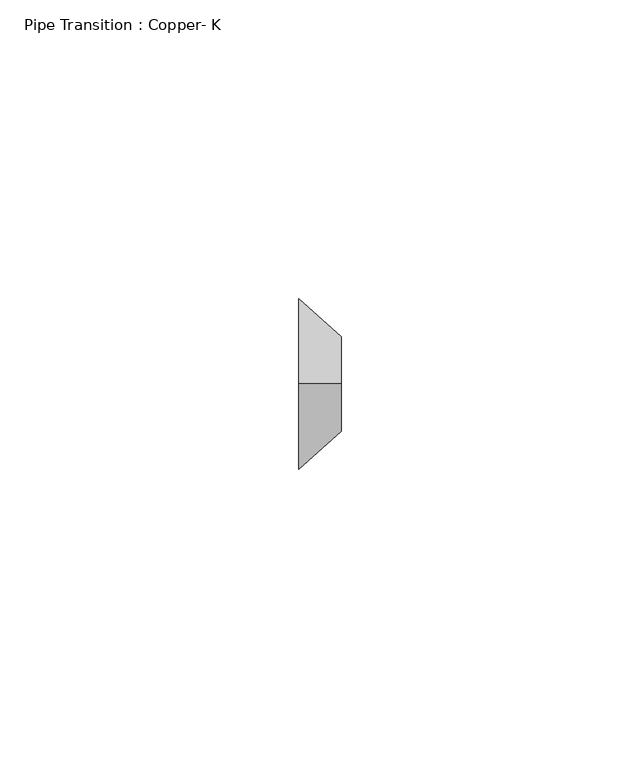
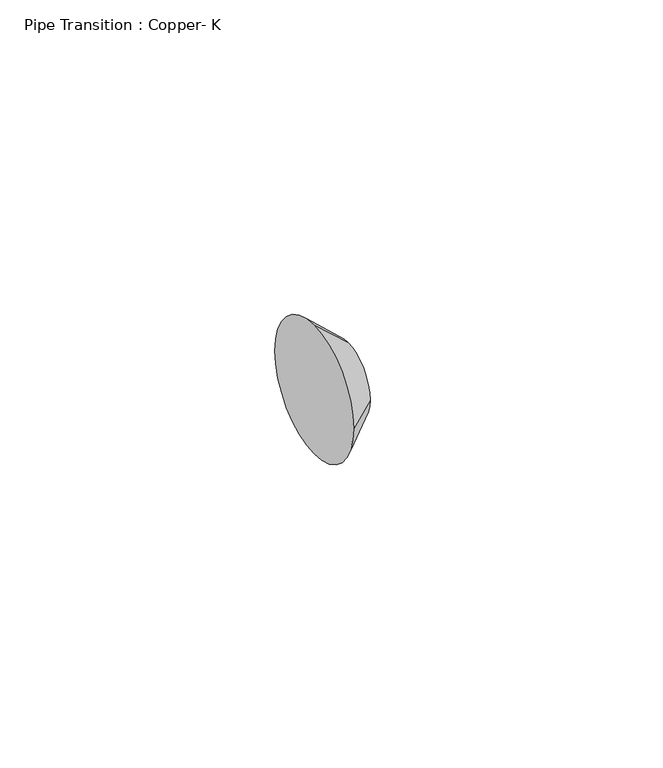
"""IFC4 building model written with IfcOpenShell, lengths in millimetres: pipe fitting geometry, Pipe Transition : Copper- K."""

import ifcopenshell
import ifcopenshell.guid

model = None  # the IFC model being written
_history = None  # IfcOwnerHistory: only IFC2X3 demands one
_inside = {}  # id of a spatial element -> (the spatial element, [elements in it])
_under = {}  # id of a project, library or spatial element -> (it, [spatial elements below it])
_declared = {}  # id of a project -> (the project, [libraries it declares])
_typed = {}  # id of a type object -> (the type object, [elements of that type])
_made_of = {}  # id of a material, layer set ... -> (it, [elements and type objects made of it])


def new_model(schema):
    """Start an empty IFC model of exactly this schema.

    Asked for "IFC4X3", IfcOpenShell would pick the latest addendum, in which some entities
    have other attributes; the version numbers below select the first issue.
    IFC2X3 requires an IfcOwnerHistory on every rooted entity: one is made here for all.
    """
    global model, _history
    if schema == "IFC4X3":
        model = ifcopenshell.file(schema_version=(4, 3, 0, 0))
    else:
        model = ifcopenshell.file(schema=schema)
    _inside.clear()
    _under.clear()
    _declared.clear()
    _typed.clear()
    _made_of.clear()
    _history = None
    if model.schema == "IFC2X3":
        org = make("IfcOrganization", Name="unknown")
        user = make(
            "IfcPersonAndOrganization",
            ThePerson=make("IfcPerson", FamilyName="unknown"),
            TheOrganization=org,
        )
        app = make(
            "IfcApplication",
            ApplicationDeveloper=org,
            Version="unknown",
            ApplicationFullName="unknown",
            ApplicationIdentifier="unknown",
        )
        _history = make(
            "IfcOwnerHistory",
            OwningUser=user,
            OwningApplication=app,
            ChangeAction="ADDED",
            CreationDate=0,
        )
    return model


def make(cls, **values):
    """One entity of the class cls with the attributes given. An attribute that is None is left unset."""
    return model.create_entity(
        cls, **{name: value for name, value in values.items() if value is not None}
    )


def rooted(cls, **values):
    """An entity with a GlobalId (a new one), such as an element, a storey or a relation."""
    return make(cls, GlobalId=ifcopenshell.guid.new(), OwnerHistory=_history, **values)


def si_unit(unit_type, name, prefix=None):
    """IfcSIUnit, for example si_unit("LENGTHUNIT", "METRE", prefix="MILLI")."""
    return make("IfcSIUnit", UnitType=unit_type, Prefix=prefix, Name=name)


def assignment(units):
    """IfcUnitAssignment: the units of a project."""
    return None if units is None else make("IfcUnitAssignment", Units=units)


def point(xyz):
    """IfcCartesianPoint."""
    return None if xyz is None else make("IfcCartesianPoint", Coordinates=xyz)


def direction(xyz):
    """IfcDirection."""
    return None if xyz is None else make("IfcDirection", DirectionRatios=xyz)


def frame(location, z_axis=None, x_axis=None):
    """IfcAxis2Placement3D, a coordinate frame: its origin and axes. An axis left out is left unset."""
    return make(
        "IfcAxis2Placement3D",
        Location=point(location),
        Axis=direction(z_axis),
        RefDirection=direction(x_axis),
    )


def origin():
    """The frame at (0, 0, 0) with its axes left unset."""
    return frame((0.0, 0.0, 0.0))


def place(relative_to, where):
    """IfcLocalPlacement: puts the frame where relative to a parent placement (None: the world)."""
    return make(
        "IfcLocalPlacement", PlacementRelTo=relative_to, RelativePlacement=where
    )


def context(
    kind, dimensions, precision=None, world=None, true_north=None, identifier=None
):
    """IfcGeometricRepresentationContext, for example the 3D "Model" context."""
    return make(
        "IfcGeometricRepresentationContext",
        ContextIdentifier=identifier,
        ContextType=kind,
        CoordinateSpaceDimension=dimensions,
        Precision=precision,
        WorldCoordinateSystem=world,
        TrueNorth=true_north,
    )


def project(units=None, contexts=None):
    """IfcProject with its units and contexts."""
    return rooted(
        "IfcProject",
        Name="project",
        RepresentationContexts=contexts,
        UnitsInContext=assignment(units),
    )


def spatial(cls, under=None, at=None, **own):
    """A site, building, storey or space (cls), placed at a placement, below another one or the project."""
    s = rooted(cls, ObjectPlacement=at, **own)
    if under is not None:
        _under.setdefault(under.id(), (under, []))[1].append(s)
    return s


def polyline(points):
    """IfcPolyline through the points."""
    return make("IfcPolyline", Points=[point(p) for p in points])


def circle_curve(where, radius):
    """IfcCircle in the frame where."""
    return make("IfcCircle", Position=where, Radius=radius)


def shape(context_of_items, identifier, shape_type, items):
    """IfcShapeRepresentation: the items that make up one representation, for example the "Body"."""
    return make(
        "IfcShapeRepresentation",
        ContextOfItems=context_of_items,
        RepresentationIdentifier=identifier,
        RepresentationType=shape_type,
        Items=items,
    )


def source(mapping_origin, context_of_items, identifier, shape_type, items):
    """IfcRepresentationMap: a shape defined once, which mapped items show again and again."""
    return make(
        "IfcRepresentationMap",
        MappingOrigin=mapping_origin,
        MappedRepresentation=shape(context_of_items, identifier, shape_type, items),
    )


def transform(
    local_origin,
    x_axis=None,
    y_axis=None,
    z_axis=None,
    scale=None,
    scale2=None,
    scale3=None,
    uniform=True,
):
    """IfcCartesianTransformationOperator3D, or its non-uniform kind. x_axis, y_axis, z_axis: its Axis1, 2, 3."""
    if uniform:
        return make(
            "IfcCartesianTransformationOperator3D",
            Axis1=direction(x_axis),
            Axis2=direction(y_axis),
            LocalOrigin=point(local_origin),
            Scale=scale,
            Axis3=direction(z_axis),
        )
    return make(
        "IfcCartesianTransformationOperator3DnonUniform",
        Axis1=direction(x_axis),
        Axis2=direction(y_axis),
        LocalOrigin=point(local_origin),
        Scale=scale,
        Axis3=direction(z_axis),
        Scale2=scale2,
        Scale3=scale3,
    )


def mapped(mapping_source, mapping_target):
    """IfcMappedItem: shows the shape of a source again, moved by a transform."""
    return make(
        "IfcMappedItem", MappingSource=mapping_source, MappingTarget=mapping_target
    )


def made_of(thing, what):
    """Note that an element or type object is made of a material, layer set ...; save() writes the relation."""
    if what is not None:
        _made_of.setdefault(what.id(), (what, []))[1].append(thing)
    return thing


def element(
    cls,
    number,
    at=None,
    inside=None,
    cuts=None,
    type_object=None,
    material=None,
    context=None,
    identifier="Body",
    shape_type=None,
    held_by="IfcProductDefinitionShape",
    body=None,
    shapes=None,
    **own,
):
    """One element of the class cls, such as IfcWall. Its Tag is "e" and its number.

    at: its placement. inside: the storey or other place that contains it. cuts: it is an
    opening in that element (IfcRelVoidsElement). A single representation is given by context,
    identifier, shape_type and body (its items); several are given by shapes. held_by: the class
    of the entity that holds the representations. save() writes the other relations.
    """
    e = rooted(cls, Tag="e%d" % number, ObjectPlacement=at, **own)
    if body is not None:
        shapes = [shape(context, identifier, shape_type, body)]
    if shapes is not None:
        e.Representation = make(held_by, Representations=shapes)
    if inside is not None:
        _inside.setdefault(inside.id(), (inside, []))[1].append(e)
    if cuts is not None:
        rooted(
            "IfcRelVoidsElement", RelatingBuildingElement=cuts, RelatedOpeningElement=e
        )
    if type_object is not None:
        _typed.setdefault(type_object.id(), (type_object, []))[1].append(e)
    return made_of(e, material)


def aggregate(whole, parts):
    """IfcRelAggregates: a whole, such as a stair, and the parts it consists of."""
    return rooted("IfcRelAggregates", RelatingObject=whole, RelatedObjects=parts)


def save(model, path):
    """Write the relations noted so far, then the file.

    IfcRelAggregates (storeys below a building ...), IfcRelContainedInSpatialStructure (elements
    in a storey), IfcRelDefinesByType, IfcRelAssociatesMaterial and IfcRelDeclares: one each for
    every whole, place, type object, material and project.
    """
    for whole, parts in _under.values():
        aggregate(whole, parts)
    for where, things in _inside.values():
        rooted(
            "IfcRelContainedInSpatialStructure",
            RelatedElements=things,
            RelatingStructure=where,
        )
    for kind, things in _typed.values():
        rooted("IfcRelDefinesByType", RelatedObjects=things, RelatingType=kind)
    for what, things in _made_of.values():
        rooted("IfcRelAssociatesMaterial", RelatedObjects=things, RelatingMaterial=what)
    for by, libraries in _declared.values():
        rooted("IfcRelDeclares", RelatingContext=by, RelatedDefinitions=libraries)
    model.write(path)


def plane_surface(at):
    """IfcPlane: the flat surface through the origin of the frame at, square to its z axis."""
    return make("IfcPlane", Position=at)


def revolved_surface(curve, axis_point, axis_direction):
    """IfcSurfaceOfRevolution: the curve turned about the line through axis_point along axis_direction."""
    return make(
        "IfcSurfaceOfRevolution",
        SweptCurve=make("IfcArbitraryOpenProfileDef", ProfileType="CURVE", Curve=curve),
        AxisPosition=make("IfcAxis1Placement", Location=point(axis_point), Axis=direction(axis_direction)),
    )


def advanced_brep(points, edges, surfaces, faces):
    """IfcAdvancedBrep: a solid bounded by faces that lie on surfaces and meet in shared edges.

    An edge is (start, end): straight between two places in points (the first is 0);
    or (start, end, curve); or (start, end, curve, False) where it runs against its curve.
    A face is (place in surfaces, loops), or (place, loops, False) where it looks against
    its surface's normal. A loop lists edges by number (the first is 1), with a minus sign
    where the edge is run from its end to its start. The first loop is the outer one.
    """
    corners = [point(p) for p in points]
    vertices = [make("IfcVertexPoint", VertexGeometry=c) for c in corners]
    made = []
    for start, end, *more in edges:
        made.append(
            make(
                "IfcEdgeCurve",
                EdgeStart=vertices[start],
                EdgeEnd=vertices[end],
                EdgeGeometry=more[0] if more else make("IfcPolyline", Points=[corners[start], corners[end]]),
                SameSense=more[1] if len(more) > 1 else True,
            )
        )
    hull = []
    for where, loops, *sense in faces:
        bounds = []
        for j, loop in enumerate(loops):
            ring = [make("IfcOrientedEdge", EdgeElement=made[abs(k) - 1], Orientation=k > 0) for k in loop]
            bounds.append(
                make(
                    "IfcFaceOuterBound" if j == 0 else "IfcFaceBound",
                    Bound=make("IfcEdgeLoop", EdgeList=ring),
                    Orientation=True,
                )
            )
        hull.append(make("IfcAdvancedFace", Bounds=bounds, FaceSurface=surfaces[where], SameSense=sense[0] if sense else True))
    return make("IfcAdvancedBrep", Outer=make("IfcClosedShell", CfsFaces=hull))


def pipe_transition_copper_k_b63fd5dd(model_context):
    return source(origin(), model_context, "Body", "AdvancedBrep", [
        advanced_brep(
        [(7.14375, 0.0, 7.9375), (7.14375, -7.9375, 0.0), (7.14375, 0.0, -7.9375), (7.14375, 7.9375, 0.0), (0.0, 0.0, 14.2875), (0.0, 14.2875, 0.0), (0.0, 0.0, -14.2875), (0.0, -14.2875, 0.0)],
        [
            (0, 1, circle_curve(frame((7.14375, 0.0, 0.0), z_axis=(1.0, 0.0, 0.0), x_axis=(0.0, 0.0, 1.0)), 7.9375)),
            (1, 2, circle_curve(frame((7.14375, 0.0, 0.0), z_axis=(1.0, 0.0, 0.0), x_axis=(0.0, -1.0, 0.0)), 7.9375)),
            (2, 3, circle_curve(frame((7.14375, 0.0, 0.0), z_axis=(1.0, 0.0, 0.0), x_axis=(0.0, 0.0, -1.0)), 7.9375)),
            (3, 0, circle_curve(frame((7.14375, 0.0, 0.0), z_axis=(1.0, 0.0, 0.0), x_axis=(0.0, 1.0, 0.0)), 7.9375)),
            (4, 5, circle_curve(frame((0.0, 0.0, 0.0), z_axis=(-1.0, 0.0, 0.0), x_axis=(0.0, 1.0, 0.0)), 14.2875)),
            (5, 6, circle_curve(frame((0.0, 0.0, 0.0), z_axis=(-1.0, 0.0, 0.0), x_axis=(0.0, 0.0, -1.0)), 14.2875)),
            (6, 7, circle_curve(frame((0.0, 0.0, 0.0), z_axis=(-1.0, 0.0, 0.0), x_axis=(0.0, -1.0, 0.0)), 14.2875)),
            (7, 4, circle_curve(frame((0.0, 0.0, 0.0), z_axis=(-1.0, 0.0, 0.0), x_axis=(0.0, 0.0, 1.0)), 14.2875)),
            (7, 1),
            (0, 4),
            (6, 2),
            (5, 3),
        ],
        [
            plane_surface(frame((7.14375, 0.0, 0.0), z_axis=(1.0, 0.0, 0.0), x_axis=(0.0, -1.0, 0.0))),
            plane_surface(frame((0.0, 0.0, 0.0), z_axis=(-1.0, 0.0, 0.0), x_axis=(0.0, -1.0, 0.0))),
            revolved_surface(polyline([(7.143750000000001, 0.0, 7.9375), (0.0, 0.0, 14.2875)]), (16.0734375, 0.0, 0.0), (-1.0, 0.0, 0.0)),
            revolved_surface(polyline([(7.143750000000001, -7.9375, 0.0), (0.0, -14.2875, 0.0)]), (16.0734375, 0.0, 0.0), (-1.0, 0.0, 0.0)),
            revolved_surface(polyline([(7.143750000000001, 0.0, -7.9375), (0.0, 0.0, -14.2875)]), (16.0734375, 0.0, 0.0), (-1.0, 0.0, 0.0)),
            revolved_surface(polyline([(7.143750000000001, 7.9375, 0.0), (0.0, 14.2875, 0.0)]), (16.0734375, 0.0, 0.0), (-1.0, 0.0, 0.0)),
        ],
        [
            (0, [[1, 2, 3, 4]]),
            (1, [[5, 6, 7, 8]]),
            (2, [[-8, 9, -1, 10]]),
            (3, [[-7, 11, -2, -9]]),
            (4, [[-6, 12, -3, -11]]),
            (5, [[-5, -10, -4, -12]]),
        ],
    ),
        advanced_brep(
        [(7.14375, 0.0, 7.9375), (7.14375, -7.9375, 0.0), (7.14375, 0.0, -7.9375), (7.14375, 7.9375, 0.0), (0.0, 0.0, 14.2875), (0.0, 14.2875, 0.0), (0.0, 0.0, -14.2875), (0.0, -14.2875, 0.0)],
        [
            (0, 1, circle_curve(frame((7.14375, 0.0, 0.0), z_axis=(1.0, 0.0, -1.1743160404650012e-12), x_axis=(1.174286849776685e-12, 0.0, 1.0)), 7.9375)),
            (1, 2, circle_curve(frame((7.14375, 0.0, 0.0), z_axis=(1.0, 0.0, -1.1269465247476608e-12), x_axis=(0.0, -1.0, 0.0)), 7.9375)),
            (2, 3, circle_curve(frame((7.14375, 0.0, 0.0), z_axis=(1.0, 0.0, -1.828334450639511e-12), x_axis=(-1.828358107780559e-12, 0.0, -1.0)), 7.9375)),
            (3, 0, circle_curve(frame((7.14375, 0.0, 0.0), z_axis=(1.0, 0.0, 0.0), x_axis=(0.0, 1.0, 0.0)), 7.9375)),
            (4, 5, circle_curve(frame((0.0, 0.0, 0.0), z_axis=(-1.0, 0.0, 0.0), x_axis=(0.0, 1.0, 0.0)), 14.2875)),
            (5, 6, circle_curve(frame((0.0, 0.0, 0.0), z_axis=(-1.0, 0.0, 1.828334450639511e-12), x_axis=(-1.828358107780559e-12, 0.0, -1.0)), 14.2875)),
            (6, 7, circle_curve(frame((0.0, 0.0, 0.0), z_axis=(-1.0, 0.0, 1.1269465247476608e-12), x_axis=(0.0, -1.0, 0.0)), 14.2875)),
            (7, 4, circle_curve(frame((0.0, 0.0, 0.0), z_axis=(-1.0, 0.0, 1.1743160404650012e-12), x_axis=(1.174286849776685e-12, 0.0, 1.0)), 14.2875)),
            (7, 1),
            (0, 4),
            (6, 2),
            (5, 3),
        ],
        [
            plane_surface(frame((7.14375, 0.0, 0.0), z_axis=(1.0, 0.0, 0.0), x_axis=(0.0, -1.0, 0.0))),
            plane_surface(frame((0.0, 0.0, 0.0), z_axis=(-1.0, 0.0, 0.0), x_axis=(0.0, -1.0, 0.0))),
            revolved_surface(polyline([(7.143750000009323, 0.0, 7.937499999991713), (0.0, 0.0, 14.2875)]), (16.0734375, 0.0, 0.0), (-1.0, 0.0, 1.1743160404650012e-12)),
            revolved_surface(polyline([(7.143750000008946, -7.937499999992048, 0.0), (0.0, -14.2875, 0.0)]), (16.0734375, 0.0, 0.0), (-1.0, 0.0, 1.1269465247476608e-12)),
            revolved_surface(polyline([(7.143750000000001, 0.0, -7.9375), (-2.6123103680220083e-11, 0.0, -14.287500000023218)]), (16.0734375, 0.0, 0.0), (-1.0, 0.0, 1.828334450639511e-12)),
            revolved_surface(polyline([(7.143750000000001, 7.9375, 0.0), (0.0, 14.2875, 0.0)]), (16.0734375, 0.0, 0.0), (-1.0, 0.0, 0.0)),
        ],
        [
            (0, [[1, 2, 3, 4]]),
            (1, [[5, 6, 7, 8]]),
            (2, [[-8, 9, -1, 10]]),
            (3, [[-7, 11, -2, -9]]),
            (4, [[-6, 12, -3, -11]]),
            (5, [[-5, -10, -4, -12]]),
        ],
    ),
    ])


if __name__ == "__main__":
    model = new_model("IFC4")
    model_context = context("Model", 3, world=origin())
    ifc_project = project(units=[si_unit("LENGTHUNIT", "METRE", prefix="MILLI")], contexts=[model_context])
    site = spatial("IfcSite", under=ifc_project)
    building = spatial("IfcBuilding", under=site)
    placement = place(None, origin())
    pipe_transition_copper_k_shape = pipe_transition_copper_k_b63fd5dd(model_context)
    element("IfcPipeFitting", 1, ObjectType="Pipe Transition : Copper- K", at=placement, inside=building, context=model_context, shape_type="MappedRepresentation", body=[
        mapped(pipe_transition_copper_k_shape, transform((0.0, 0.0, 0.0), x_axis=(1.0, 0.0, 0.0), y_axis=(0.0, 1.0, 0.0), z_axis=(0.0, 0.0, 1.0))),
    ])
    save(model, "model.ifc")
